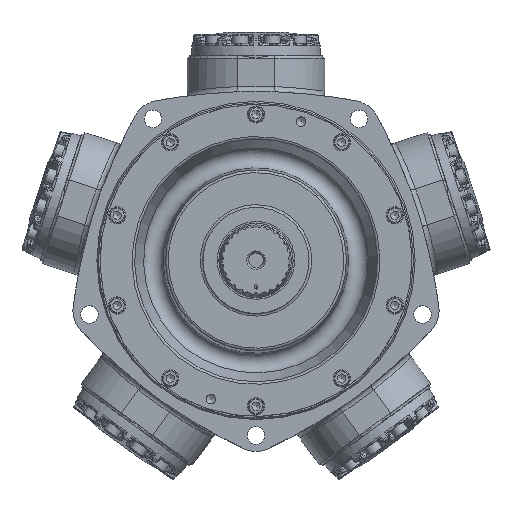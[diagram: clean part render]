
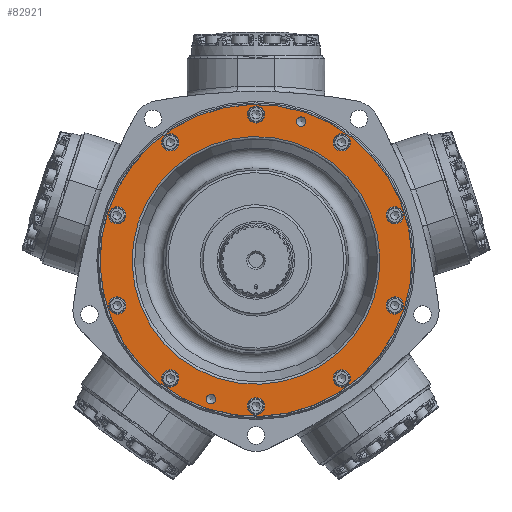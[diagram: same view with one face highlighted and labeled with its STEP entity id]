
A CAD part, top view. The second image highlights one B-rep face of the part: STEP entity #82921.
In plain terms, the highlighted planar face has unit normal (0, 0, 1).
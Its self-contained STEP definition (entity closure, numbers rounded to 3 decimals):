
#6974=FACE_BOUND('',#23477,.T.);
#6975=FACE_BOUND('',#23478,.T.);
#6976=FACE_BOUND('',#23479,.T.);
#6977=FACE_BOUND('',#23480,.T.);
#6978=FACE_BOUND('',#23481,.T.);
#6979=FACE_BOUND('',#23482,.T.);
#6980=FACE_BOUND('',#23483,.T.);
#6981=FACE_BOUND('',#23484,.T.);
#6982=FACE_BOUND('',#23485,.T.);
#6983=FACE_BOUND('',#23486,.T.);
#6984=FACE_BOUND('',#23487,.T.);
#6985=FACE_BOUND('',#23488,.T.);
#6986=FACE_BOUND('',#23489,.T.);
#18254=FACE_OUTER_BOUND('',#23476,.T.);
#23476=EDGE_LOOP('',(#57795));
#23477=EDGE_LOOP('',(#57796));
#23478=EDGE_LOOP('',(#57797));
#23479=EDGE_LOOP('',(#57798));
#23480=EDGE_LOOP('',(#57799));
#23481=EDGE_LOOP('',(#57800));
#23482=EDGE_LOOP('',(#57801));
#23483=EDGE_LOOP('',(#57802));
#23484=EDGE_LOOP('',(#57803));
#23485=EDGE_LOOP('',(#57804));
#23486=EDGE_LOOP('',(#57805));
#23487=EDGE_LOOP('',(#57806));
#23488=EDGE_LOOP('',(#57807));
#23489=EDGE_LOOP('',(#57808));
#28208=CIRCLE('',#88592,148.273);
#28220=CIRCLE('',#88612,186.628);
#28221=CIRCLE('',#88613,5.664);
#28222=CIRCLE('',#88614,5.664);
#28223=CIRCLE('',#88615,10.319);
#28224=CIRCLE('',#88616,10.319);
#28225=CIRCLE('',#88617,10.319);
#28226=CIRCLE('',#88618,10.319);
#28227=CIRCLE('',#88619,10.319);
#28228=CIRCLE('',#88620,10.319);
#28229=CIRCLE('',#88621,10.319);
#28230=CIRCLE('',#88622,10.319);
#28231=CIRCLE('',#88623,10.319);
#28232=CIRCLE('',#88624,10.319);
#32963=VERTEX_POINT('',#151826);
#32973=VERTEX_POINT('',#151860);
#32974=VERTEX_POINT('',#151862);
#32975=VERTEX_POINT('',#151864);
#32976=VERTEX_POINT('',#151866);
#32977=VERTEX_POINT('',#151868);
#32978=VERTEX_POINT('',#151870);
#32979=VERTEX_POINT('',#151872);
#32980=VERTEX_POINT('',#151874);
#32981=VERTEX_POINT('',#151876);
#32982=VERTEX_POINT('',#151878);
#32983=VERTEX_POINT('',#151880);
#32984=VERTEX_POINT('',#151882);
#32985=VERTEX_POINT('',#151884);
#41828=EDGE_CURVE('',#32963,#32963,#28208,.T.);
#41843=EDGE_CURVE('',#32973,#32973,#28220,.T.);
#41844=EDGE_CURVE('',#32974,#32974,#28221,.T.);
#41845=EDGE_CURVE('',#32975,#32975,#28222,.T.);
#41846=EDGE_CURVE('',#32976,#32976,#28223,.T.);
#41847=EDGE_CURVE('',#32977,#32977,#28224,.T.);
#41848=EDGE_CURVE('',#32978,#32978,#28225,.T.);
#41849=EDGE_CURVE('',#32979,#32979,#28226,.T.);
#41850=EDGE_CURVE('',#32980,#32980,#28227,.T.);
#41851=EDGE_CURVE('',#32981,#32981,#28228,.T.);
#41852=EDGE_CURVE('',#32982,#32982,#28229,.T.);
#41853=EDGE_CURVE('',#32983,#32983,#28230,.T.);
#41854=EDGE_CURVE('',#32984,#32984,#28231,.T.);
#41855=EDGE_CURVE('',#32985,#32985,#28232,.T.);
#57795=ORIENTED_EDGE('',*,*,#41843,.T.);
#57796=ORIENTED_EDGE('',*,*,#41844,.T.);
#57797=ORIENTED_EDGE('',*,*,#41845,.T.);
#57798=ORIENTED_EDGE('',*,*,#41846,.T.);
#57799=ORIENTED_EDGE('',*,*,#41847,.T.);
#57800=ORIENTED_EDGE('',*,*,#41848,.T.);
#57801=ORIENTED_EDGE('',*,*,#41849,.T.);
#57802=ORIENTED_EDGE('',*,*,#41850,.T.);
#57803=ORIENTED_EDGE('',*,*,#41851,.T.);
#57804=ORIENTED_EDGE('',*,*,#41852,.T.);
#57805=ORIENTED_EDGE('',*,*,#41853,.T.);
#57806=ORIENTED_EDGE('',*,*,#41854,.T.);
#57807=ORIENTED_EDGE('',*,*,#41855,.T.);
#57808=ORIENTED_EDGE('',*,*,#41828,.F.);
#75408=PLANE('',#88611);
#82921=ADVANCED_FACE('',(#18254,#6974,#6975,#6976,#6977,#6978,#6979,#6980,
#6981,#6982,#6983,#6984,#6985,#6986),#75408,.T.);
#88592=AXIS2_PLACEMENT_3D('',#151828,#98916,#98917);
#88611=AXIS2_PLACEMENT_3D('',#151859,#98957,#98958);
#88612=AXIS2_PLACEMENT_3D('',#151861,#98959,#98960);
#88613=AXIS2_PLACEMENT_3D('',#151863,#98961,#98962);
#88614=AXIS2_PLACEMENT_3D('',#151865,#98963,#98964);
#88615=AXIS2_PLACEMENT_3D('',#151867,#98965,#98966);
#88616=AXIS2_PLACEMENT_3D('',#151869,#98967,#98968);
#88617=AXIS2_PLACEMENT_3D('',#151871,#98969,#98970);
#88618=AXIS2_PLACEMENT_3D('',#151873,#98971,#98972);
#88619=AXIS2_PLACEMENT_3D('',#151875,#98973,#98974);
#88620=AXIS2_PLACEMENT_3D('',#151877,#98975,#98976);
#88621=AXIS2_PLACEMENT_3D('',#151879,#98977,#98978);
#88622=AXIS2_PLACEMENT_3D('',#151881,#98979,#98980);
#88623=AXIS2_PLACEMENT_3D('',#151883,#98981,#98982);
#88624=AXIS2_PLACEMENT_3D('',#151885,#98983,#98984);
#98916=DIRECTION('center_axis',(0.,0.,
1.));
#98917=DIRECTION('ref_axis',(-0.309,-0.951,0.));
#98957=DIRECTION('center_axis',(0.,0.,
1.));
#98958=DIRECTION('ref_axis',(0.951,-0.309,0.));
#98959=DIRECTION('center_axis',(0.,0.,
1.));
#98960=DIRECTION('ref_axis',(0.309,0.951,0.));
#98961=DIRECTION('center_axis',(0.,0.,
-1.));
#98962=DIRECTION('ref_axis',(0.951,-0.309,0.));
#98963=DIRECTION('center_axis',(0.,0.,
-1.));
#98964=DIRECTION('ref_axis',(0.951,-0.309,0.));
#98965=DIRECTION('center_axis',(0.,0.,
-1.));
#98966=DIRECTION('ref_axis',(-0.588,0.809,0.));
#98967=DIRECTION('center_axis',(0.,0.,
-1.));
#98968=DIRECTION('ref_axis',(0.,1.,0.));
#98969=DIRECTION('center_axis',(0.,0.,
-1.));
#98970=DIRECTION('ref_axis',(0.588,0.809,0.));
#98971=DIRECTION('center_axis',(0.,0.,
-1.));
#98972=DIRECTION('ref_axis',(0.951,0.309,0.));
#98973=DIRECTION('center_axis',(0.,0.,
-1.));
#98974=DIRECTION('ref_axis',(0.951,-0.309,0.));
#98975=DIRECTION('center_axis',(0.,0.,
-1.));
#98976=DIRECTION('ref_axis',(0.588,-0.809,0.));
#98977=DIRECTION('center_axis',(0.,0.,
-1.));
#98978=DIRECTION('ref_axis',(0.,-1.,0.));
#98979=DIRECTION('center_axis',(0.,0.,
-1.));
#98980=DIRECTION('ref_axis',(-0.588,-0.809,0.));
#98981=DIRECTION('center_axis',(0.,0.,
-1.));
#98982=DIRECTION('ref_axis',(-0.951,-0.309,0.));
#98983=DIRECTION('center_axis',(0.,0.,
-1.));
#98984=DIRECTION('ref_axis',(-0.951,0.309,0.));
#151826=CARTESIAN_POINT('',(-141.016,45.819,119.254));
#151828=CARTESIAN_POINT('Origin',(0.,0.,
119.254));
#151859=CARTESIAN_POINT('Origin',(52.49,161.549,119.254));
#151860=CARTESIAN_POINT('',(-57.671,-177.493,119.254));
#151861=CARTESIAN_POINT('Origin',(0.,0.,
119.254));
#151862=CARTESIAN_POINT('',(48.575,167.829,119.254));
#151863=CARTESIAN_POINT('Origin',(53.962,166.078,119.254));
#151864=CARTESIAN_POINT('',(-59.349,-164.328,119.254));
#151865=CARTESIAN_POINT('Origin',(-53.962,-166.078,119.254));
#151866=CARTESIAN_POINT('',(108.707,-149.623,119.254));
#151867=CARTESIAN_POINT('Origin',(102.642,-141.275,119.254));
#151868=CARTESIAN_POINT('',(0.,-184.944,119.254));
#151869=CARTESIAN_POINT('Origin',(0.,-174.625,119.254));
#151870=CARTESIAN_POINT('',(-108.707,-149.623,119.254));
#151871=CARTESIAN_POINT('Origin',(-102.642,-141.275,119.254));
#151872=CARTESIAN_POINT('',(-175.892,-57.151,119.254));
#151873=CARTESIAN_POINT('Origin',(-166.078,-53.962,119.254));
#151874=CARTESIAN_POINT('',(-175.892,57.151,119.254));
#151875=CARTESIAN_POINT('Origin',(-166.078,53.962,119.254));
#151876=CARTESIAN_POINT('',(-108.707,149.623,119.254));
#151877=CARTESIAN_POINT('Origin',(-102.642,141.275,119.254));
#151878=CARTESIAN_POINT('',(0.,184.944,119.254));
#151879=CARTESIAN_POINT('Origin',(0.,174.625,119.254));
#151880=CARTESIAN_POINT('',(108.707,149.623,119.254));
#151881=CARTESIAN_POINT('Origin',(102.642,141.275,119.254));
#151882=CARTESIAN_POINT('',(175.892,57.151,119.254));
#151883=CARTESIAN_POINT('Origin',(166.078,53.962,119.254));
#151884=CARTESIAN_POINT('',(175.892,-57.151,119.254));
#151885=CARTESIAN_POINT('Origin',(166.078,-53.962,119.254));
